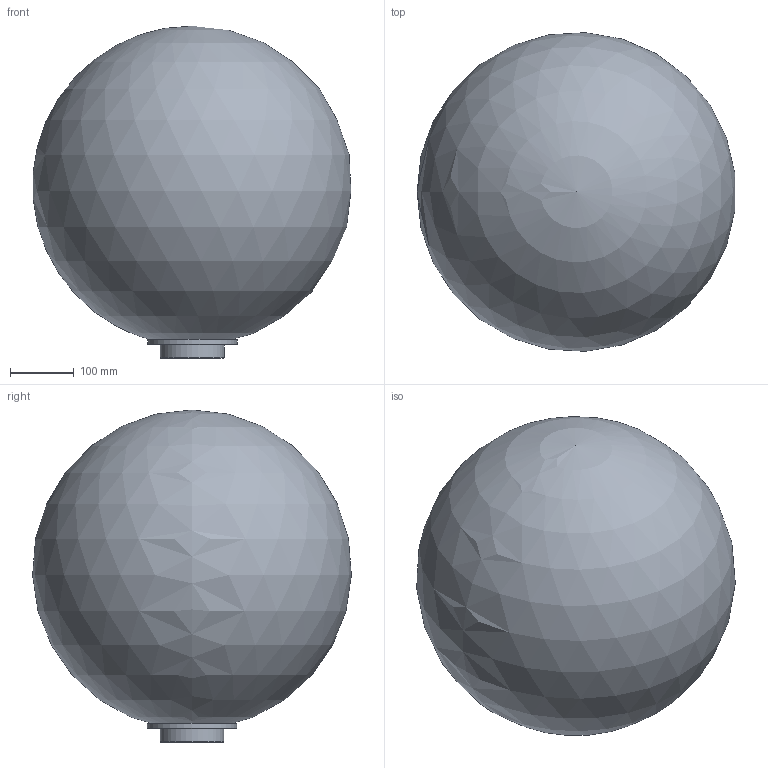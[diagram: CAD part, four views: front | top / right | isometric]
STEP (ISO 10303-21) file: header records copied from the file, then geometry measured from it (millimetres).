
FILE_DESCRIPTION(/* description */ (''),/* implementation_level */ '2;1');
FILE_NAME(/* name */ 'C:/Users/LukasGröber/GMS Cloud/Groeber Mannheim Lichtwerke - Dokumente/Marketing/Produkte/3D Daten/Kugel Sahara Stationär/Kugel Sahara 50 Stationär.step',/* time_stamp */ '2022-07-08T11:17:55+02:00',/* author */ (''),/* organization */ (''),/* preprocessor_version */ 'ST-DEVELOPER v19',/* originating_system */ 'Autodesk Translation Framework v11.7.0.108',/* authorisation */ '');
FILE_SCHEMA (('AUTOMOTIVE_DESIGN { 1 0 10303 214 3 1 1 }'));
Length unit declared in the file: millimetre
Products named in the file (3): Kugel Sahara 50 Stationär; Ring Stationär 30-60 (Modell); Kugel Sahara 500 Öffnung 80
Assembly tree (2 placements, depth 2):
  Kugel Sahara 50 Stationär
    Ring Stationär 30-60 (Modell)
    Kugel Sahara 500 Öffnung 80
Bounding box: 497.36 x 498.86 x 519.71 mm (x, y, z)
Volume: 3883423.8 mm3; surface area: 1564189.9 mm2
Topology: 2 solids, 2 shells, 16 faces, 32 edges, 20 vertices
Faces by surface type: plane 4, cylinder 4, cone 3, torus 3, sphere 2
Full cylindrical faces by diameter (mm): 80 x1, 94 x1, 100 x1, 140 x1
Entity records: 529 total; most frequent: DIRECTION 97, CARTESIAN_POINT 72, ORIENTED_EDGE 60, AXIS2_PLACEMENT_3D 45, EDGE_CURVE 30, CIRCLE 23, EDGE_LOOP 20, VERTEX_POINT 20
